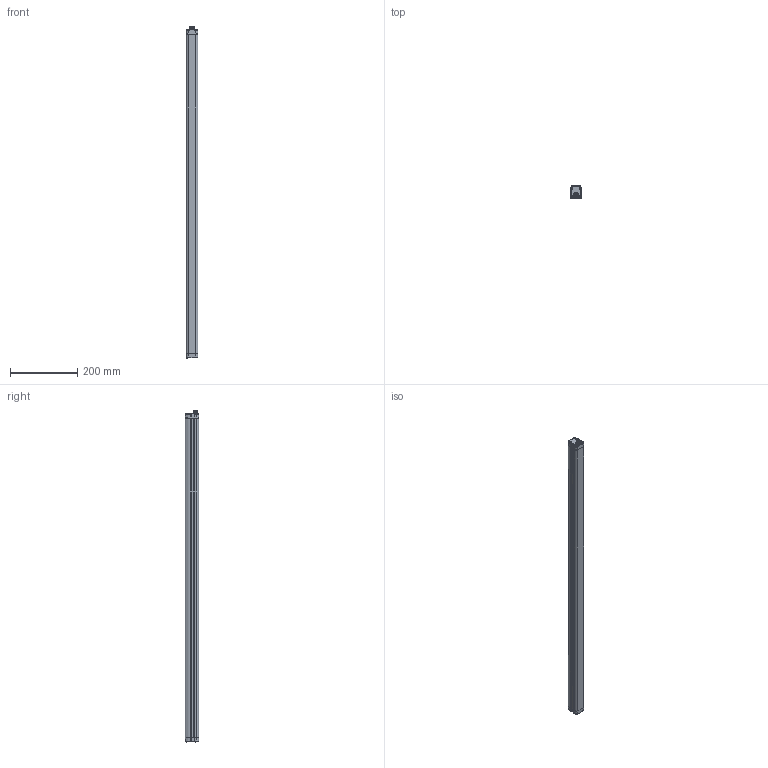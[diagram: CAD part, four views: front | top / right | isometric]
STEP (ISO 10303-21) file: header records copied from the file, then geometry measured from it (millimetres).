
FILE_DESCRIPTION(/* description */ (''),/* implementation_level */ '2;1');
FILE_NAME(/* name */ 'AP036495_00-DS2-05-07-090-JV TX.stp',/* time_stamp */ '2022-04-08T15:21:25+02:00',/* author */ (''),/* organization */ (''),/* preprocessor_version */ 'ST-DEVELOPER v16.7',/* originating_system */ 'SIEMENS PLM Software NX 1946',/* authorisation */ '');
FILE_SCHEMA (('AUTOMOTIVE_DESIGN { 1 0 10303 214 3 1 1 1 }'));
Length unit declared in the file: millimetre
Products named in the file (1): FGut6DB814880pg3
Bounding box: 35 x 40.1 x 991 mm (x, y, z)
Surface area: 193490.9 mm2
Topology: 3 solids, 4 shells, 727 faces, 1989 edges, 1278 vertices
Faces by surface type: plane 295, cylinder 211, cone 76, bspline 67, torus 60, revolution 8, sphere 6, extrusion 4
Full cylindrical faces by diameter (mm): 1 x4, 3 x1, 3.8 x2, 4.2 x1, 5 x8, 6 x1, 6.8 x1, 8.3 x1, 10.4 x1, 10.55 x1, 12 x7, 14 x1, 14.5 x1
Entity records: 30090 total; most frequent: CARTESIAN_POINT 9153, ORIENTED_EDGE 3800, DIRECTION 3351, EDGE_CURVE 1900, VERTEX_POINT 1266, AXIS2_PLACEMENT_3D 1177, VECTOR 989, LINE 985
